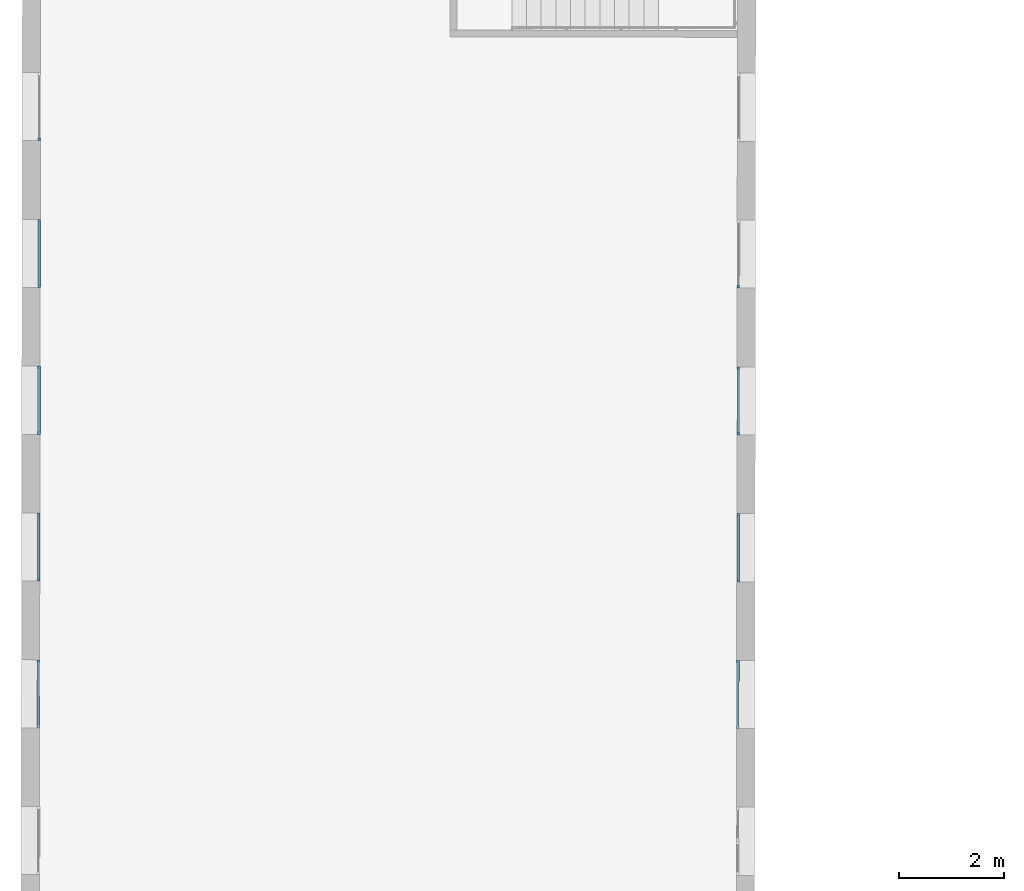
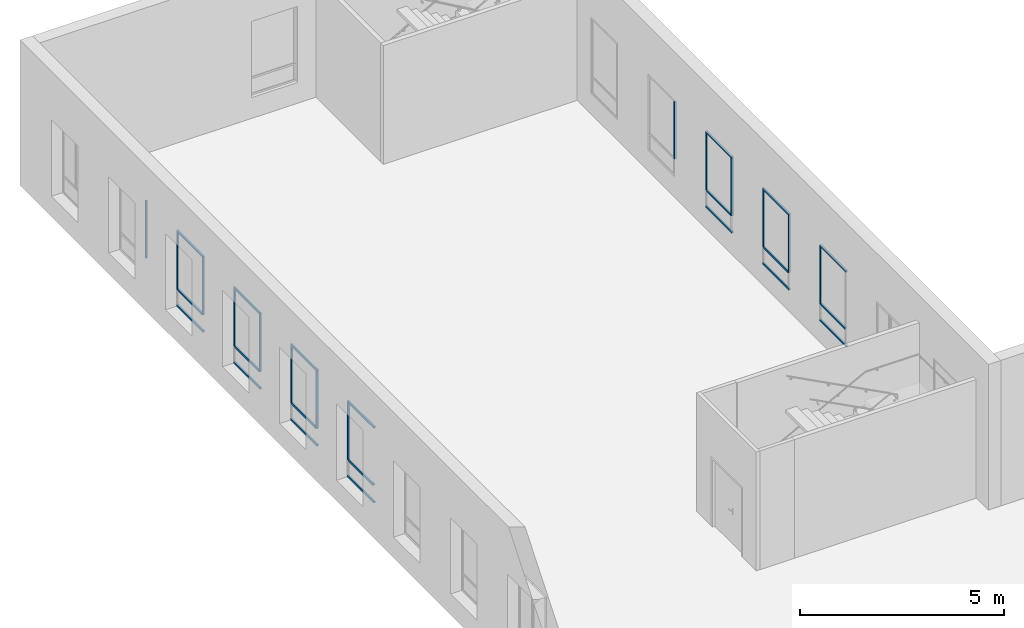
# One storey, part 5 of 35: 35 members, 9 elements without a shape of their own.
"""IFC2X3 building model written with IfcOpenShell, lengths in metres."""

from ifc_helpers import new_model, entity, si_unit, converted_unit, derived_unit, direction, frame, frame_2d, origin, origin_2d_with_axis, place, context, subcontext, project, spatial, rectangle, extrude, source, transform, mapped, material, type_object, type_shapes, element, aggregate, save


model = new_model("IFC2X3")

# Units and contexts
model_context = context("Model", 3, precision=1e-05, world=origin(), true_north=direction((6.123233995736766e-17, 1.0)))
body_context = subcontext(model_context, "Body", "Model", "MODEL_VIEW")
ifc_project = project(units=[si_unit("LENGTHUNIT", "METRE"), si_unit("AREAUNIT", "SQUARE_METRE"), converted_unit("PLANEANGLEUNIT", "DEGREE", entity("IfcPlaneAngleMeasure", 0.017453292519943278), si_unit("PLANEANGLEUNIT", "RADIAN"), dimensions=[0, 0, 0, 0, 0, 0, 0]), derived_unit("THERMALTRANSMITTANCEUNIT", [(si_unit("MASSUNIT", "GRAM", prefix="KILO"), 1), (si_unit("THERMODYNAMICTEMPERATUREUNIT", "KELVIN"), -1), (si_unit("TIMEUNIT", "SECOND"), -3)])], contexts=[model_context])

# Site, building, storey
site_placement = place(None, frame((1253.6752467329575, 2072.143113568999, 91.49999999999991), z_axis=(0.0, 0.0, 1.0), x_axis=(0.7237211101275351, 0.6900925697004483, 0.0)))
site = spatial("IfcSite", under=ifc_project, at=site_placement, Name="Surface", CompositionType="ELEMENT")
building_placement = place(site_placement, origin())
building = spatial("IfcBuilding", under=site, at=building_placement, CompositionType="ELEMENT")
storey_placement = place(building_placement, frame((0.0, 0.0, 3.549999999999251)))
storey = spatial("IfcBuildingStorey", under=building, at=storey_placement, Name="1-R+1", CompositionType="ELEMENT", Elevation=3.549999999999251)

# Curtain wall, member
curtain_wall_type = type_object("IfcCurtainWallType", Name="Mur-rideau:Menuiserie Ext 1F+1OB VERTIC", PredefinedType="NOTDEFINED")
curtain_wall_1_placement = place(storey_placement, frame((0.0, 0.0, -3.549999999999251)))
curtain_wall_1 = element("IfcCurtainWall", 1, at=curtain_wall_1_placement, inside=storey, type_object=curtain_wall_type, Name="Mur-rideau:Menuiserie Ext 1F+1OB VERTIC", ObjectType="Mur-rideau:Menuiserie Ext 1F+1OB VERTIC")
ifc_material = material(Name="OMD_Aluminium Men Ext")
member_type_1 = type_object("IfcMemberType", Name="Meneau rectangulaire:50x50", PredefinedType="MULLION", material=ifc_material)
shared_shape_1 = source(origin(), body_context, "Body", "SweptSolid", [
    extrude(rectangle(XDim=0.05, YDim=0.049999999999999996, at=origin_2d_with_axis()), frame((-0.025, 0.0, -1.2996959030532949), z_axis=(0.0, 0.0, 1.0), x_axis=(-1.0, 0.0, 0.0)), (0.0, 0.0, 1.0), 1.2996959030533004),
])
type_shapes(member_type_1, [shared_shape_1])
member_1_placement = place(curtain_wall_1_placement, frame((159.56004066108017, 20.331439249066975, 6.4499999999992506), z_axis=(0.6911544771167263, 0.7227070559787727, 0.0), x_axis=(0.0, 0.0, 1.0)))
member_1 = element("IfcMember", 2, at=member_1_placement, type_object=member_type_1, material=ifc_material, Name="Meneau rectangulaire:50x50", ObjectType="Meneau rectangulaire:50x50", context=body_context, shape_type="MappedRepresentation", body=[
    mapped(shared_shape_1, transform((0.0, 0.0, 0.0), scale=1.0)),
])

curtain_wall_2_placement = place(storey_placement, frame((0.0, 0.0, -3.549999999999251)))
curtain_wall_2 = element("IfcCurtainWall", 3, at=curtain_wall_2_placement, inside=storey, type_object=curtain_wall_type, Name="Mur-rideau:Menuiserie Ext 1F+1OB VERTIC", ObjectType="Mur-rideau:Menuiserie Ext 1F+1OB VERTIC")
member_2_placement = place(curtain_wall_2_placement, frame((161.4947953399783, 22.355475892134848, 6.4499999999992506), z_axis=(0.6911544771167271, 0.7227070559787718, 0.0), x_axis=(0.0, 0.0, 1.0)))
member_2 = element("IfcMember", 4, at=member_2_placement, type_object=member_type_1, material=ifc_material, Name="Meneau rectangulaire:50x50", ObjectType="Meneau rectangulaire:50x50", context=body_context, shape_type="MappedRepresentation", body=[
    mapped(shared_shape_1, transform((0.0, 0.0, 0.0), scale=1.0)),
])

curtain_wall_3_placement = place(storey_placement, frame((0.0, 0.0, -3.549999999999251)))
curtain_wall_3 = element("IfcCurtainWall", 5, at=curtain_wall_3_placement, inside=storey, type_object=curtain_wall_type, Name="Mur-rideau:Menuiserie Ext 1F+1OB VERTIC", ObjectType="Mur-rideau:Menuiserie Ext 1F+1OB VERTIC")
member_3_placement = place(curtain_wall_3_placement, frame((157.62250968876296, 18.310060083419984, 6.4499999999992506), z_axis=(0.6911544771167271, 0.7227070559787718, 0.0), x_axis=(0.0, 0.0, 1.0)))
member_3 = element("IfcMember", 6, at=member_3_placement, type_object=member_type_1, material=ifc_material, Name="Meneau rectangulaire:50x50", ObjectType="Meneau rectangulaire:50x50", context=body_context, shape_type="MappedRepresentation", body=[
    mapped(shared_shape_1, transform((0.0, 0.0, 0.0), scale=1.0)),
])

curtain_wall_4_placement = place(storey_placement, frame((0.0, 0.0, -3.549999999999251)))
curtain_wall_4 = element("IfcCurtainWall", 7, at=curtain_wall_4_placement, inside=storey, type_object=curtain_wall_type, Name="Mur-rideau:Menuiserie Ext 1F+1OB VERTIC", ObjectType="Mur-rideau:Menuiserie Ext 1F+1OB VERTIC")
member_4_placement = place(curtain_wall_4_placement, frame((155.68497871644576, 16.288680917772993, 6.4499999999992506), z_axis=(0.691154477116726, 0.7227070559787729, 0.0), x_axis=(0.0, 0.0, 1.0)))
member_4 = element("IfcMember", 8, at=member_4_placement, type_object=member_type_1, material=ifc_material, Name="Meneau rectangulaire:50x50", ObjectType="Meneau rectangulaire:50x50", context=body_context, shape_type="MappedRepresentation", body=[
    mapped(shared_shape_1, transform((0.0, 0.0, 0.0), scale=1.0)),
])

# Member
member_type_2 = type_object("IfcMemberType", Name="Meneau rectangulaire:50x50", PredefinedType="MULLION", material=ifc_material)
shared_shape_2 = source(origin(), body_context, "Body", "SweptSolid", [
    extrude(rectangle(XDim=0.05, YDim=0.05, at=origin_2d_with_axis()), frame((-0.025, 0.0, -1.2996959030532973), z_axis=(0.0, 0.0, 1.0), x_axis=(-1.0, 0.0, 0.0)), (0.0, 0.0, 1.0), 1.2996959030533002),
])
type_shapes(member_type_2, [shared_shape_2])
member_5_placement = place(curtain_wall_1_placement, frame((158.66175001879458, 19.392139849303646, 4.169999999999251), z_axis=(-0.6911544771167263, -0.7227070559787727, 0.0), x_axis=(0.0, 0.0, -1.0)))
member_5 = element("IfcMember", 9, at=member_5_placement, type_object=member_type_2, material=ifc_material, Name="Meneau rectangulaire:50x50", ObjectType="Meneau rectangulaire:50x50", context=body_context, shape_type="MappedRepresentation", body=[
    mapped(shared_shape_2, transform((0.0, 0.0, 0.0), scale=1.0)),
])

member_6_placement = place(curtain_wall_2_placement, frame((160.59650469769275, 21.416176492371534, 4.169999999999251), z_axis=(-0.6911544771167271, -0.7227070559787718, 0.0), x_axis=(0.0, 0.0, -1.0)))
member_6 = element("IfcMember", 10, at=member_6_placement, type_object=member_type_2, material=ifc_material, Name="Meneau rectangulaire:50x50", ObjectType="Meneau rectangulaire:50x50", context=body_context, shape_type="MappedRepresentation", body=[
    mapped(shared_shape_2, transform((0.0, 0.0, 0.0), scale=1.0)),
])

member_7_placement = place(curtain_wall_3_placement, frame((156.7242190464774, 17.370760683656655, 4.169999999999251), z_axis=(-0.6911544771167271, -0.7227070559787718, 0.0), x_axis=(0.0, 0.0, -1.0)))
member_7 = element("IfcMember", 11, at=member_7_placement, type_object=member_type_2, material=ifc_material, Name="Meneau rectangulaire:50x50", ObjectType="Meneau rectangulaire:50x50", context=body_context, shape_type="MappedRepresentation", body=[
    mapped(shared_shape_2, transform((0.0, 0.0, 0.0), scale=1.0)),
])

member_8_placement = place(curtain_wall_4_placement, frame((154.78668807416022, 15.349381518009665, 4.169999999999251), z_axis=(-0.691154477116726, -0.7227070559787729, 0.0), x_axis=(0.0, 0.0, -1.0)))
member_8 = element("IfcMember", 12, at=member_8_placement, type_object=member_type_2, material=ifc_material, Name="Meneau rectangulaire:50x50", ObjectType="Meneau rectangulaire:50x50", context=body_context, shape_type="MappedRepresentation", body=[
    mapped(shared_shape_2, transform((0.0, 0.0, 0.0), scale=1.0)),
])

member_type_3 = type_object("IfcMemberType", Name="Meneau rectangulaire:50x50", PredefinedType="MULLION", material=ifc_material)
shared_shape_3 = source(origin(), body_context, "Body", "SweptSolid", [
    extrude(rectangle(XDim=0.05, YDim=0.049999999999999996, at=origin_2d_with_axis()), frame((-0.025, 0.0, -1.7099999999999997), z_axis=(0.0, 0.0, 1.0), x_axis=(-1.0, 0.0, 0.0)), (0.0, 0.0, 1.0), 1.7099999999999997),
])
type_shapes(member_type_3, [shared_shape_3])
member_9_placement = place(curtain_wall_1_placement, frame((158.66175001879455, 19.392139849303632, 6.399999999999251), z_axis=(0.0, 0.0, 1.0), x_axis=(-0.6911544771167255, -0.7227070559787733, 0.0)))
member_9 = element("IfcMember", 13, at=member_9_placement, type_object=member_type_3, material=ifc_material, Name="Meneau rectangulaire:50x50", ObjectType="Meneau rectangulaire:50x50", context=body_context, shape_type="MappedRepresentation", body=[
    mapped(shared_shape_3, transform((0.0, 0.0, 0.0), scale=1.0)),
])

member_10_placement = place(curtain_wall_2_placement, frame((160.59650469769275, 21.41617649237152, 6.399999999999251), z_axis=(0.0, 0.0, 1.0), x_axis=(-0.6911544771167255, -0.7227070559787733, 0.0)))
member_10 = element("IfcMember", 14, at=member_10_placement, type_object=member_type_3, material=ifc_material, Name="Meneau rectangulaire:50x50", ObjectType="Meneau rectangulaire:50x50", context=body_context, shape_type="MappedRepresentation", body=[
    mapped(shared_shape_3, transform((0.0, 0.0, 0.0), scale=1.0)),
])

# Curtain wall, member
curtain_wall_5_placement = place(storey_placement, frame((0.0, 0.0, -3.549999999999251)))
curtain_wall_5 = element("IfcCurtainWall", 15, at=curtain_wall_5_placement, inside=storey, type_object=curtain_wall_type, Name="Mur-rideau:Menuiserie Ext 1F+1OB VERTIC", ObjectType="Mur-rideau:Menuiserie Ext 1F+1OB VERTIC")
member_11_placement = place(curtain_wall_5_placement, frame((162.53125937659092, 23.440213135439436, 6.399999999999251), z_axis=(0.0, 0.0, 1.0), x_axis=(-0.6911544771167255, -0.7227070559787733, 0.0)))
member_11 = element("IfcMember", 16, at=member_11_placement, type_object=member_type_3, material=ifc_material, Name="Meneau rectangulaire:50x50", ObjectType="Meneau rectangulaire:50x50", context=body_context, shape_type="MappedRepresentation", body=[
    mapped(shared_shape_3, transform((0.0, 0.0, 0.0), scale=1.0)),
])
aggregate(curtain_wall_5, [member_11])

# Member
member_12_placement = place(curtain_wall_3_placement, frame((156.7242190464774, 17.37076068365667, 6.399999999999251), z_axis=(0.0, 0.0, 1.0), x_axis=(-0.6911544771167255, -0.7227070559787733, 0.0)))
member_12 = element("IfcMember", 17, at=member_12_placement, type_object=member_type_3, material=ifc_material, Name="Meneau rectangulaire:50x50", ObjectType="Meneau rectangulaire:50x50", context=body_context, shape_type="MappedRepresentation", body=[
    mapped(shared_shape_3, transform((0.0, 0.0, 0.0), scale=1.0)),
])

member_type_4 = type_object("IfcMemberType", Name="Meneau rectangulaire:50x50", PredefinedType="MULLION", material=ifc_material)
shared_shape_4 = source(origin(), body_context, "Body", "SweptSolid", [
    extrude(rectangle(XDim=0.05, YDim=0.049999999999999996, at=origin_2d_with_axis()), frame((-0.025, 0.0, -1.7099999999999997), z_axis=(0.0, 0.0, 1.0), x_axis=(-1.0, 0.0, 0.0)), (0.0, 0.0, 1.0), 1.7099999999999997),
])
type_shapes(member_type_4, [shared_shape_4])
member_13_placement = place(curtain_wall_1_placement, frame((159.56004066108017, 20.33143924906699, 4.689999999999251), z_axis=(0.0, 0.0, -1.0), x_axis=(0.6911544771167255, 0.7227070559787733, 0.0)))
member_13 = element("IfcMember", 18, at=member_13_placement, type_object=member_type_4, material=ifc_material, Name="Meneau rectangulaire:50x50", ObjectType="Meneau rectangulaire:50x50", context=body_context, shape_type="MappedRepresentation", body=[
    mapped(shared_shape_4, transform((0.0, 0.0, 0.0), scale=1.0)),
])

member_14_placement = place(curtain_wall_2_placement, frame((161.49479533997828, 22.355475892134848, 4.689999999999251), z_axis=(0.0, 0.0, -1.0), x_axis=(0.6911544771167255, 0.7227070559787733, 0.0)))
member_14 = element("IfcMember", 19, at=member_14_placement, type_object=member_type_4, material=ifc_material, Name="Meneau rectangulaire:50x50", ObjectType="Meneau rectangulaire:50x50", context=body_context, shape_type="MappedRepresentation", body=[
    mapped(shared_shape_4, transform((0.0, 0.0, 0.0), scale=1.0)),
])

member_15_placement = place(curtain_wall_3_placement, frame((157.62250968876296, 18.310060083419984, 4.689999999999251), z_axis=(0.0, 0.0, -1.0), x_axis=(0.6911544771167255, 0.7227070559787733, 0.0)))
member_15 = element("IfcMember", 20, at=member_15_placement, type_object=member_type_4, material=ifc_material, Name="Meneau rectangulaire:50x50", ObjectType="Meneau rectangulaire:50x50", context=body_context, shape_type="MappedRepresentation", body=[
    mapped(shared_shape_4, transform((0.0, 0.0, 0.0), scale=1.0)),
])

member_16_placement = place(curtain_wall_4_placement, frame((155.68497871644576, 16.288680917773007, 4.689999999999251), z_axis=(0.0, 0.0, -1.0), x_axis=(0.6911544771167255, 0.7227070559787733, 0.0)))
member_16 = element("IfcMember", 21, at=member_16_placement, type_object=member_type_4, material=ifc_material, Name="Meneau rectangulaire:50x50", ObjectType="Meneau rectangulaire:50x50", context=body_context, shape_type="MappedRepresentation", body=[
    mapped(shared_shape_4, transform((0.0, 0.0, 0.0), scale=1.0)),
])

member_type_5 = type_object("IfcMemberType", Name="Meneau rectangulaire:50x50", PredefinedType="MULLION", material=ifc_material)
shared_shape_5 = source(origin(), body_context, "Body", "SweptSolid", [
    extrude(rectangle(XDim=0.05, YDim=0.05, at=frame_2d((0.0, -1.734723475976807e-18), x_axis=(1.0, 0.0))), frame((0.0, 0.0, -1.1996959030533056), z_axis=(0.0, 0.0, 1.0), x_axis=(-1.0, 0.0, 0.0)), (0.0, 0.0, 1.0), 1.1996959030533),
])
type_shapes(member_type_5, [shared_shape_5])
member_17_placement = place(curtain_wall_1_placement, frame((159.52548293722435, 20.295303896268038, 4.689999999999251), z_axis=(0.6911544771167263, 0.7227070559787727, 0.0), x_axis=(0.0, 0.0, 1.0)))
member_17 = element("IfcMember", 22, at=member_17_placement, type_object=member_type_5, material=ifc_material, Name="Meneau rectangulaire:50x50", ObjectType="Meneau rectangulaire:50x50", context=body_context, shape_type="MappedRepresentation", body=[
    mapped(shared_shape_5, transform((0.0, 0.0, 0.0), scale=1.0)),
])

aggregate(curtain_wall_1, [member_1, member_5, member_9, member_13, member_17])

member_18_placement = place(curtain_wall_2_placement, frame((161.46023761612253, 22.319340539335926, 4.689999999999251), z_axis=(0.6911544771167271, 0.7227070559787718, 0.0), x_axis=(0.0, 0.0, 1.0)))
member_18 = element("IfcMember", 23, at=member_18_placement, type_object=member_type_5, material=ifc_material, Name="Meneau rectangulaire:50x50", ObjectType="Meneau rectangulaire:50x50", context=body_context, shape_type="MappedRepresentation", body=[
    mapped(shared_shape_5, transform((0.0, 0.0, 0.0), scale=1.0)),
])

aggregate(curtain_wall_2, [member_2, member_6, member_10, member_14, member_18])

member_19_placement = place(curtain_wall_3_placement, frame((157.58795196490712, 18.273924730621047, 4.689999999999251), z_axis=(0.6911544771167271, 0.7227070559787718, 0.0), x_axis=(0.0, 0.0, 1.0)))
member_19 = element("IfcMember", 24, at=member_19_placement, type_object=member_type_5, material=ifc_material, Name="Meneau rectangulaire:50x50", ObjectType="Meneau rectangulaire:50x50", context=body_context, shape_type="MappedRepresentation", body=[
    mapped(shared_shape_5, transform((0.0, 0.0, 0.0), scale=1.0)),
])

aggregate(curtain_wall_3, [member_3, member_7, member_12, member_15, member_19])

member_20_placement = place(curtain_wall_4_placement, frame((155.65042099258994, 16.252545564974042, 4.689999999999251), z_axis=(0.691154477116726, 0.7227070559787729, 0.0), x_axis=(0.0, 0.0, 1.0)))
member_20 = element("IfcMember", 25, at=member_20_placement, type_object=member_type_5, material=ifc_material, Name="Meneau rectangulaire:50x50", ObjectType="Meneau rectangulaire:50x50", context=body_context, shape_type="MappedRepresentation", body=[
    mapped(shared_shape_5, transform((0.0, 0.0, 0.0), scale=1.0)),
])

aggregate(curtain_wall_4, [member_4, member_8, member_16, member_20])

# Curtain wall, member
curtain_wall_6_placement = place(storey_placement, frame((0.0, 0.0, -3.549999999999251)))
curtain_wall_6 = element("IfcCurtainWall", 26, at=curtain_wall_6_placement, inside=storey, type_object=curtain_wall_type, Name="Mur-rideau:Menuiserie Ext 1F+1OB VERTIC", ObjectType="Mur-rideau:Menuiserie Ext 1F+1OB VERTIC")
member_type_6 = type_object("IfcMemberType", Name="Meneau rectangulaire:50x50", PredefinedType="MULLION", material=ifc_material)
shared_shape_6 = source(origin(), body_context, "Body", "SweptSolid", [
    extrude(rectangle(XDim=0.05, YDim=0.05, at=origin_2d_with_axis()), frame((-0.025, 0.0, -1.2996959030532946), z_axis=(0.0, 0.0, 1.0), x_axis=(-1.0, 0.0, 0.0)), (0.0, 0.0, 1.0), 1.299695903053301),
])
type_shapes(member_type_6, [shared_shape_6])
member_21_placement = place(curtain_wall_6_placement, frame((169.2043831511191, 11.117999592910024, 6.4499999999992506), z_axis=(0.6909838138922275, 0.7228702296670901, 0.0), x_axis=(0.0, 0.0, 1.0)))
member_21 = element("IfcMember", 27, at=member_21_placement, type_object=member_type_6, material=ifc_material, Name="Meneau rectangulaire:50x50", ObjectType="Meneau rectangulaire:50x50", context=body_context, shape_type="MappedRepresentation", body=[
    mapped(shared_shape_6, transform((0.0, 0.0, 0.0), scale=1.0)),
])

curtain_wall_7_placement = place(storey_placement, frame((0.0, 0.0, -3.549999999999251)))
curtain_wall_7 = element("IfcCurtainWall", 28, at=curtain_wall_7_placement, inside=storey, type_object=curtain_wall_type, Name="Mur-rideau:Menuiserie Ext 1F+1OB VERTIC", ObjectType="Mur-rideau:Menuiserie Ext 1F+1OB VERTIC")
member_22_placement = place(curtain_wall_7_placement, frame((167.26962847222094, 9.09396294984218, 6.4499999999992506), z_axis=(0.6909838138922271, 0.7228702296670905, 0.0), x_axis=(0.0, 0.0, 1.0)))
member_22 = element("IfcMember", 29, at=member_22_placement, type_object=member_type_6, material=ifc_material, Name="Meneau rectangulaire:50x50", ObjectType="Meneau rectangulaire:50x50", context=body_context, shape_type="MappedRepresentation", body=[
    mapped(shared_shape_6, transform((0.0, 0.0, 0.0), scale=1.0)),
])

curtain_wall_8_placement = place(storey_placement, frame((0.0, 0.0, -3.549999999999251)))
curtain_wall_8 = element("IfcCurtainWall", 30, at=curtain_wall_8_placement, inside=storey, type_object=curtain_wall_type, Name="Mur-rideau:Menuiserie Ext 1F+1OB VERTIC", ObjectType="Mur-rideau:Menuiserie Ext 1F+1OB VERTIC")
member_23_placement = place(curtain_wall_8_placement, frame((165.33487379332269, 7.0699263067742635, 6.4499999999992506), z_axis=(0.6909838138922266, 0.7228702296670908, 0.0), x_axis=(0.0, 0.0, 1.0)))
member_23 = element("IfcMember", 31, at=member_23_placement, type_object=member_type_6, material=ifc_material, Name="Meneau rectangulaire:50x50", ObjectType="Meneau rectangulaire:50x50", context=body_context, shape_type="MappedRepresentation", body=[
    mapped(shared_shape_6, transform((0.0, 0.0, 0.0), scale=1.0)),
])

# Member
member_type_7 = type_object("IfcMemberType", Name="Meneau rectangulaire:50x50", PredefinedType="MULLION", material=ifc_material)
shared_shape_7 = source(origin(), body_context, "Body", "SweptSolid", [
    extrude(rectangle(XDim=0.05, YDim=0.05, at=origin_2d_with_axis()), frame((-0.025, 0.0, -1.299695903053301), z_axis=(0.0, 0.0, 1.0), x_axis=(-1.0, 0.0, 0.0)), (0.0, 0.0, 1.0), 1.299695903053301),
])
type_shapes(member_type_7, [shared_shape_7])
member_24_placement = place(curtain_wall_6_placement, frame((168.30631431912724, 10.178488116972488, 4.169999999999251), z_axis=(-0.6909838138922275, -0.7228702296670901, 0.0), x_axis=(0.0, 0.0, -1.0)))
member_24 = element("IfcMember", 32, at=member_24_placement, type_object=member_type_7, material=ifc_material, Name="Meneau rectangulaire:50x50", ObjectType="Meneau rectangulaire:50x50", context=body_context, shape_type="MappedRepresentation", body=[
    mapped(shared_shape_7, transform((0.0, 0.0, 0.0), scale=1.0)),
])

member_25_placement = place(curtain_wall_7_placement, frame((166.37155964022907, 8.154451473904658, 4.169999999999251), z_axis=(-0.6909838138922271, -0.7228702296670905, 0.0), x_axis=(0.0, 0.0, -1.0)))
member_25 = element("IfcMember", 33, at=member_25_placement, type_object=member_type_7, material=ifc_material, Name="Meneau rectangulaire:50x50", ObjectType="Meneau rectangulaire:50x50", context=body_context, shape_type="MappedRepresentation", body=[
    mapped(shared_shape_7, transform((0.0, 0.0, 0.0), scale=1.0)),
])

member_26_placement = place(curtain_wall_8_placement, frame((164.4368049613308, 6.1304148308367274, 4.169999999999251), z_axis=(-0.6909838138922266, -0.7228702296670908, 0.0), x_axis=(0.0, 0.0, -1.0)))
member_26 = element("IfcMember", 34, at=member_26_placement, type_object=member_type_7, material=ifc_material, Name="Meneau rectangulaire:50x50", ObjectType="Meneau rectangulaire:50x50", context=body_context, shape_type="MappedRepresentation", body=[
    mapped(shared_shape_7, transform((0.0, 0.0, 0.0), scale=1.0)),
])

# Curtain wall, member
curtain_wall_9_placement = place(storey_placement, frame((0.0, 0.0, -3.549999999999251)))
curtain_wall_9 = element("IfcCurtainWall", 35, at=curtain_wall_9_placement, inside=storey, type_object=curtain_wall_type, Name="Mur-rideau:Menuiserie Ext 1F+1OB VERTIC", ObjectType="Mur-rideau:Menuiserie Ext 1F+1OB VERTIC")
member_type_8 = type_object("IfcMemberType", Name="Meneau rectangulaire:50x50", PredefinedType="MULLION", material=ifc_material)
shared_shape_8 = source(origin(), body_context, "Body", "SweptSolid", [
    extrude(rectangle(XDim=0.05, YDim=0.05000000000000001, at=origin_2d_with_axis()), frame((-0.025, 0.0, -1.7099999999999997), z_axis=(0.0, 0.0, 1.0), x_axis=(-1.0, 0.0, 0.0)), (0.0, 0.0, 1.0), 1.7099999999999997),
])
type_shapes(member_type_8, [shared_shape_8])
member_27_placement = place(curtain_wall_9_placement, frame((170.24106899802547, 12.202524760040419, 6.399999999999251), z_axis=(0.0, 0.0, 1.0), x_axis=(-0.6909838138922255, -0.722870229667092, 0.0)))
member_27 = element("IfcMember", 36, at=member_27_placement, type_object=member_type_8, material=ifc_material, Name="Meneau rectangulaire:50x50", ObjectType="Meneau rectangulaire:50x50", context=body_context, shape_type="MappedRepresentation", body=[
    mapped(shared_shape_8, transform((0.0, 0.0, 0.0), scale=1.0)),
])
aggregate(curtain_wall_9, [member_27])

# Member
member_28_placement = place(curtain_wall_6_placement, frame((168.30631431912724, 10.178488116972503, 6.399999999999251), z_axis=(0.0, 0.0, 1.0), x_axis=(-0.6909838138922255, -0.722870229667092, 0.0)))
member_28 = element("IfcMember", 37, at=member_28_placement, type_object=member_type_8, material=ifc_material, Name="Meneau rectangulaire:50x50", ObjectType="Meneau rectangulaire:50x50", context=body_context, shape_type="MappedRepresentation", body=[
    mapped(shared_shape_8, transform((0.0, 0.0, 0.0), scale=1.0)),
])

member_29_placement = place(curtain_wall_7_placement, frame((166.3715596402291, 8.154451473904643, 6.399999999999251), z_axis=(0.0, 0.0, 1.0), x_axis=(-0.6909838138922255, -0.722870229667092, 0.0)))
member_29 = element("IfcMember", 38, at=member_29_placement, type_object=member_type_8, material=ifc_material, Name="Meneau rectangulaire:50x50", ObjectType="Meneau rectangulaire:50x50", context=body_context, shape_type="MappedRepresentation", body=[
    mapped(shared_shape_8, transform((0.0, 0.0, 0.0), scale=1.0)),
])

member_type_9 = type_object("IfcMemberType", Name="Meneau rectangulaire:50x50", PredefinedType="MULLION", material=ifc_material)
shared_shape_9 = source(origin(), body_context, "Body", "SweptSolid", [
    extrude(rectangle(XDim=0.05, YDim=0.049999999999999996, at=origin_2d_with_axis()), frame((-0.025, 0.0, -1.7099999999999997), z_axis=(0.0, 0.0, 1.0), x_axis=(-1.0, 0.0, 0.0)), (0.0, 0.0, 1.0), 1.7099999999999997),
])
type_shapes(member_type_9, [shared_shape_9])
member_30_placement = place(curtain_wall_6_placement, frame((169.20438315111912, 11.117999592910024, 4.689999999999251), z_axis=(0.0, 0.0, -1.0), x_axis=(0.6909838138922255, 0.722870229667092, 0.0)))
member_30 = element("IfcMember", 39, at=member_30_placement, type_object=member_type_9, material=ifc_material, Name="Meneau rectangulaire:50x50", ObjectType="Meneau rectangulaire:50x50", context=body_context, shape_type="MappedRepresentation", body=[
    mapped(shared_shape_9, transform((0.0, 0.0, 0.0), scale=1.0)),
])

member_31_placement = place(curtain_wall_7_placement, frame((167.26962847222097, 9.093962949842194, 4.689999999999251), z_axis=(0.0, 0.0, -1.0), x_axis=(0.6909838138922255, 0.722870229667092, 0.0)))
member_31 = element("IfcMember", 40, at=member_31_placement, type_object=member_type_9, material=ifc_material, Name="Meneau rectangulaire:50x50", ObjectType="Meneau rectangulaire:50x50", context=body_context, shape_type="MappedRepresentation", body=[
    mapped(shared_shape_9, transform((0.0, 0.0, 0.0), scale=1.0)),
])

member_32_placement = place(curtain_wall_8_placement, frame((165.33487379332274, 7.069926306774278, 4.689999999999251), z_axis=(0.0, 0.0, -1.0), x_axis=(0.6909838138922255, 0.722870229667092, 0.0)))
member_32 = element("IfcMember", 41, at=member_32_placement, type_object=member_type_9, material=ifc_material, Name="Meneau rectangulaire:50x50", ObjectType="Meneau rectangulaire:50x50", context=body_context, shape_type="MappedRepresentation", body=[
    mapped(shared_shape_9, transform((0.0, 0.0, 0.0), scale=1.0)),
])

member_type_10 = type_object("IfcMemberType", Name="Meneau rectangulaire:50x50", PredefinedType="MULLION", material=ifc_material)
shared_shape_10 = source(origin(), body_context, "Body", "SweptSolid", [
    extrude(rectangle(XDim=0.05, YDim=0.05, at=origin_2d_with_axis()), frame((0.0, 0.0, -1.1996959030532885), z_axis=(0.0, 0.0, 1.0), x_axis=(-1.0, 0.0, 0.0)), (0.0, 0.0, 1.0), 1.199695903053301),
])
type_shapes(member_type_10, [shared_shape_10])
member_33_placement = place(curtain_wall_6_placement, frame((169.1698339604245, 11.081856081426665, 4.689999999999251), z_axis=(0.6909838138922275, 0.7228702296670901, 0.0), x_axis=(0.0, 0.0, 1.0)))
member_33 = element("IfcMember", 42, at=member_33_placement, type_object=member_type_10, material=ifc_material, Name="Meneau rectangulaire:50x50", ObjectType="Meneau rectangulaire:50x50", context=body_context, shape_type="MappedRepresentation", body=[
    mapped(shared_shape_10, transform((0.0, 0.0, 0.0), scale=1.0)),
])

aggregate(curtain_wall_6, [member_21, member_24, member_28, member_30, member_33])

member_34_placement = place(curtain_wall_7_placement, frame((167.23507928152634, 9.057819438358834, 4.689999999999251), z_axis=(0.6909838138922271, 0.7228702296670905, 0.0), x_axis=(0.0, 0.0, 1.0)))
member_34 = element("IfcMember", 43, at=member_34_placement, type_object=member_type_10, material=ifc_material, Name="Meneau rectangulaire:50x50", ObjectType="Meneau rectangulaire:50x50", context=body_context, shape_type="MappedRepresentation", body=[
    mapped(shared_shape_10, transform((0.0, 0.0, 0.0), scale=1.0)),
])

aggregate(curtain_wall_7, [member_22, member_25, member_29, member_31, member_34])

member_35_placement = place(curtain_wall_8_placement, frame((165.30032460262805, 7.033782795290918, 4.689999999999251), z_axis=(0.6909838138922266, 0.7228702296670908, 0.0), x_axis=(0.0, 0.0, 1.0)))
member_35 = element("IfcMember", 44, at=member_35_placement, type_object=member_type_10, material=ifc_material, Name="Meneau rectangulaire:50x50", ObjectType="Meneau rectangulaire:50x50", context=body_context, shape_type="MappedRepresentation", body=[
    mapped(shared_shape_10, transform((0.0, 0.0, 0.0), scale=1.0)),
])

aggregate(curtain_wall_8, [member_23, member_26, member_32, member_35])

save(model, "model.ifc")
